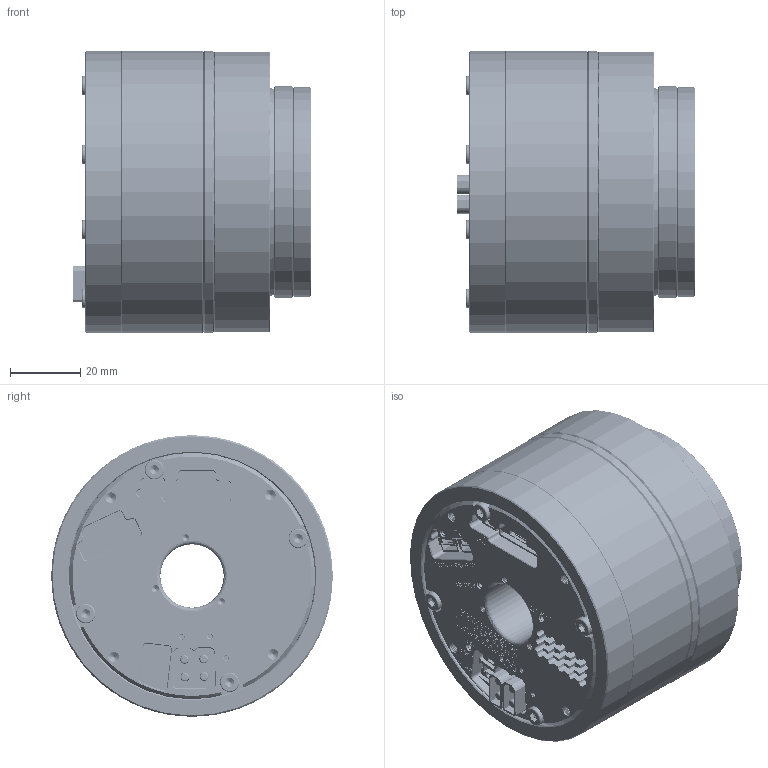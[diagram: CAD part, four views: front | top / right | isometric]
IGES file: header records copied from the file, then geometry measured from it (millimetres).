
Start section: SolidWorks IGES file using analytic representation for surfaces
Global section: file name: 33HG:\李鸿彬\00 官网需更新模型\00官网需更新模型 源文件\官网更新3D\I型\eRob80 I型\eRob80 I型（V6）\eRob80H××I-XX-18EX_V6_MC2E.DX.XX.IGS; native system: SolidWorks 2021; preprocessor: SolidWorks 2021; author: ZERO; date: 241112.203317; units: millimetre
Bounding box: 67.5 x 80 x 80 mm (x, y, z)
Surface area: 42815.2 mm2 (no closed solid volume)
Topology: 0 solids, 5 shells, 5085 faces, 13827 edges, 9024 vertices
Faces by surface type: plane 2553, revolution 2021, bspline 511
